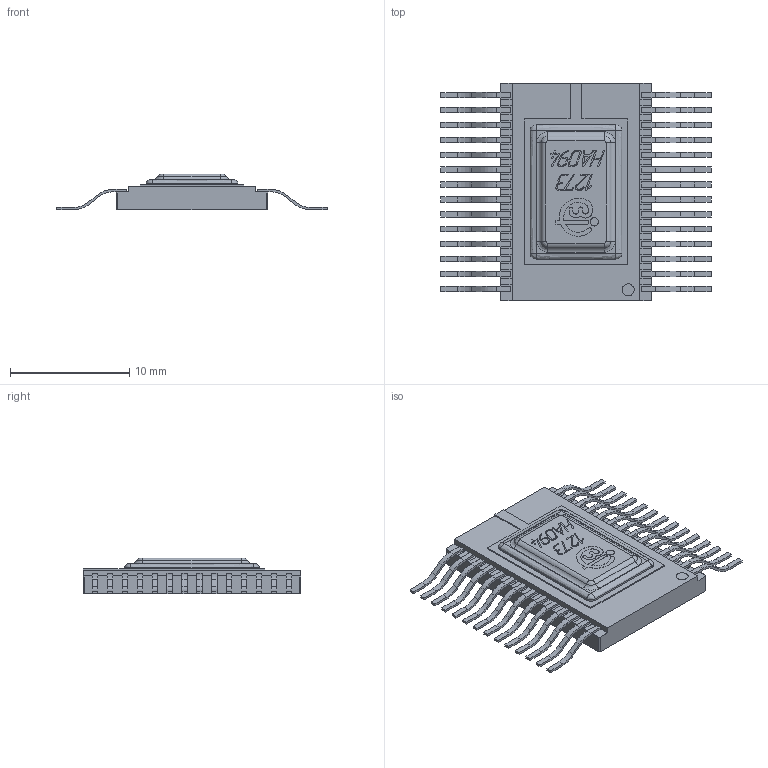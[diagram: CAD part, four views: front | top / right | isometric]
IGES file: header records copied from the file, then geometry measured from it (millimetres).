
Start section: IGES file generated from Kompas 1.1 for Windows drawing by the IGES translator from Ascon Ltd., translator version IGESOUT-5.1.
Global section: file name: D:\Work\3D\4119.28-1\1273HA094.igs; native system: Kompas( 32 bit ) for Windows; preprocessor: 1.0; author: Âîðîíîâ; organization: unknown; date: -17811102:102833; units: millimetre
Bounding box: 22.7 x 18.25 x 3 mm (x, y, z)
Volume: 534.4 mm3; surface area: 1262.2 mm2
Topology: 32 solids, 32 shells, 1103 faces, 3000 edges, 1972 vertices
Faces by surface type: bspline 809, revolution 283, extrusion 11
